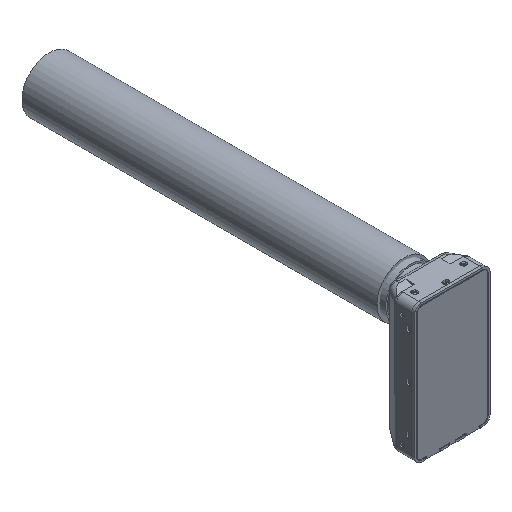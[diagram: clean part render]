
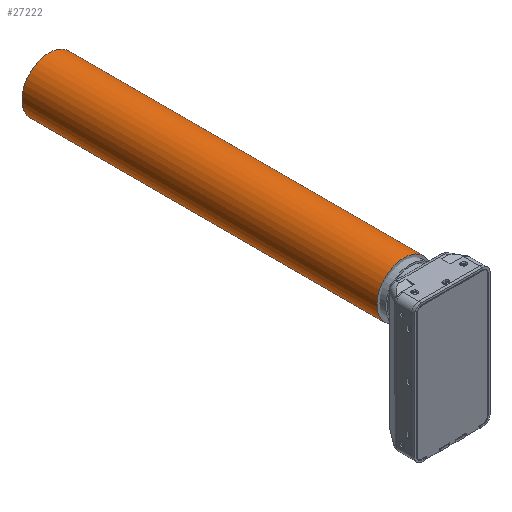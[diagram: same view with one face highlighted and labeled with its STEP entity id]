
A CAD part, isometric view. The second image highlights one B-rep face of the part: STEP entity #27222.
In plain terms, the highlighted cylindrical face has radius 35 mm (diameter 70 mm), a partial arc.
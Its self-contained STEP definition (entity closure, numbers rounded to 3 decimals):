
#23612=CARTESIAN_POINT('',(0.,-479.,0.));
#23613=DIRECTION('',(0.,1.,0.));
#23614=DIRECTION('',(-0.707,0.,-0.707));
#23615=AXIS2_PLACEMENT_3D('',#23612,#23613,#23614);
#23892=CARTESIAN_POINT('',(0.,-23.,0.));
#23893=DIRECTION('',(0.,1.,0.));
#23894=DIRECTION('',(-0.707,0.,-0.707));
#23895=AXIS2_PLACEMENT_3D('',#23892,#23893,#23894);
#23908=DIRECTION('',(0.,-1.,0.));
#23909=VECTOR('',#23908,456.);
#23910=CARTESIAN_POINT('',(-24.749,-23.,-24.749));
#23911=LINE('',#23910,#23909);
#23915=DIRECTION('',(0.,1.,0.));
#23916=VECTOR('',#23915,456.);
#23917=CARTESIAN_POINT('',(24.749,-479.,24.749));
#23918=LINE('',#23917,#23916);
#26624=CARTESIAN_POINT('',(-24.749,-479.,-24.749));
#26625=CARTESIAN_POINT('',(24.749,-479.,24.749));
#26626=VERTEX_POINT('',#26624);
#26627=VERTEX_POINT('',#26625);
#27118=CARTESIAN_POINT('',(-24.749,-23.,-24.749));
#27119=CARTESIAN_POINT('',(24.749,-23.,24.749));
#27120=VERTEX_POINT('',#27118);
#27121=VERTEX_POINT('',#27119);
#27208=CARTESIAN_POINT('',(0.,-10.,0.));
#27209=DIRECTION('',(0.,1.,0.));
#27210=DIRECTION('',(-1.,0.,0.));
#27211=AXIS2_PLACEMENT_3D('',#27208,#27209,#27210);
#27212=CYLINDRICAL_SURFACE('',#27211,35.);
#27214=ORIENTED_EDGE('',*,*,#27213,.T.);
#27216=ORIENTED_EDGE('',*,*,#27215,.F.);
#27217=ORIENTED_EDGE('',*,*,#27127,.F.);
#27219=ORIENTED_EDGE('',*,*,#27218,.F.);
#27220=EDGE_LOOP('',(#27214,#27216,#27217,#27219));
#27221=FACE_OUTER_BOUND('',#27220,.F.);
#23616=CIRCLE('',#23615,35.);
#23896=CIRCLE('',#23895,35.);
#27127=EDGE_CURVE('',#26626,#26627,#23616,.T.);
#27213=EDGE_CURVE('',#27120,#27121,#23896,.T.);
#27215=EDGE_CURVE('',#26627,#27121,#23918,.T.);
#27218=EDGE_CURVE('',#27120,#26626,#23911,.T.);
#27222=ADVANCED_FACE('',(#27221),#27212,.T.);
